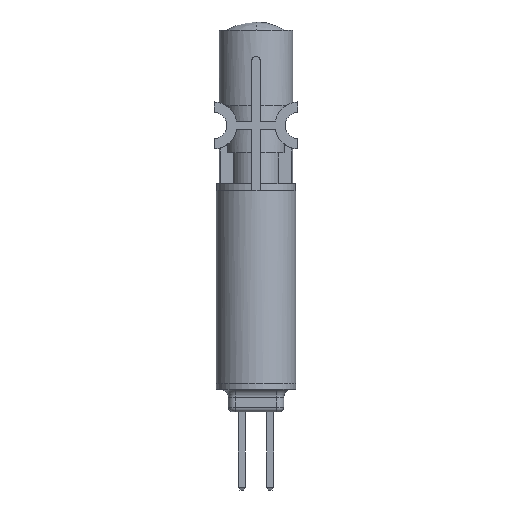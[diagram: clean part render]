
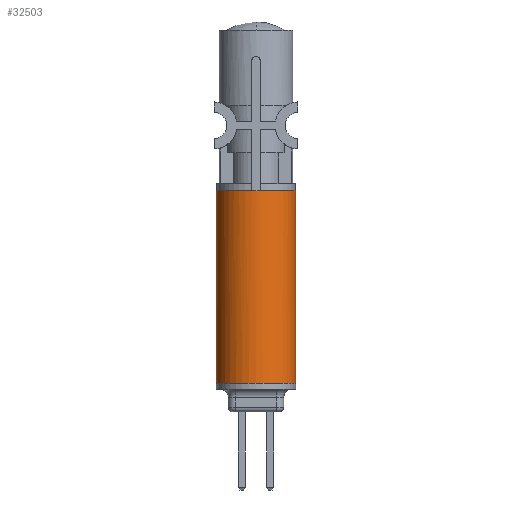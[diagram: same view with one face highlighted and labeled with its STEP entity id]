
A CAD part, front view. The second image highlights one B-rep face of the part: STEP entity #32503.
In plain terms, the highlighted cylindrical face has radius 3.581 mm (diameter 7.163 mm), a partial arc.
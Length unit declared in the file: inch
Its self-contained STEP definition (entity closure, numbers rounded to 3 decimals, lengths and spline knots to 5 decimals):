
#81 = EDGE_LOOP ( 'NONE', ( #31595, #30205, #34369, #18401, #40531, #6697 ) ) ;
#1026 = EDGE_CURVE ( 'NONE', #14448, #36892, #40650, .T. ) ;
#1933 = CYLINDRICAL_SURFACE ( 'NONE', #6724, 0.141 ) ;
#2360 = FACE_OUTER_BOUND ( 'NONE', #81, .T. ) ;
#3554 = DIRECTION ( 'NONE',  ( 0., 0., 1. ) ) ;
#3737 = CARTESIAN_POINT ( 'NONE',  ( 0., 0., -0.566 ) ) ;
#4627 = CARTESIAN_POINT ( 'NONE',  ( -0.015, -0.1402, -0.566 ) ) ;
#6697 = ORIENTED_EDGE ( 'NONE', *, *, #10096, .T. ) ;
#6724 = AXIS2_PLACEMENT_3D ( 'NONE', #30754, #11769, #28006 ) ;
#6922 = DIRECTION ( 'NONE',  ( -1., 0., 0. ) ) ;
#9408 = VECTOR ( 'NONE', #3554, 39.37008 ) ;
#9518 = DIRECTION ( 'NONE',  ( -1., 0., 0. ) ) ;
#9530 = CARTESIAN_POINT ( 'NONE',  ( 0.141, 0., -1.266 ) ) ;
#9634 = AXIS2_PLACEMENT_3D ( 'NONE', #3737, #13342, #9518 ) ;
#10096 = EDGE_CURVE ( 'NONE', #23543, #19625, #29833, .T. ) ;
#10362 = AXIS2_PLACEMENT_3D ( 'NONE', #23663, #17154, #6922 ) ;
#11734 = VECTOR ( 'NONE', #39836, 39.37008 ) ;
#11769 = DIRECTION ( 'NONE',  ( 0., 0., 1. ) ) ;
#13058 = CIRCLE ( 'NONE', #10362, 0.141 ) ;
#13342 = DIRECTION ( 'NONE',  ( 0., 0., -1. ) ) ;
#13752 = CARTESIAN_POINT ( 'NONE',  ( -0.141, 0., -0.566 ) ) ;
#14444 = CARTESIAN_POINT ( 'NONE',  ( 0., 0., -0.566 ) ) ;
#14448 = VERTEX_POINT ( 'NONE', #19082 ) ;
#15322 = EDGE_CURVE ( 'NONE', #36892, #23543, #33289, .T. ) ;
#15456 = EDGE_CURVE ( 'NONE', #28042, #19625, #22642, .T. ) ;
#16248 = CARTESIAN_POINT ( 'NONE',  ( 0., 0., -0.566 ) ) ;
#16534 = CARTESIAN_POINT ( 'NONE',  ( -0.141, 0., -1.266 ) ) ;
#17154 = DIRECTION ( 'NONE',  ( 0., 0., -1. ) ) ;
#18401 = ORIENTED_EDGE ( 'NONE', *, *, #1026, .T. ) ;
#19082 = CARTESIAN_POINT ( 'NONE',  ( 0.141, 0., -0.566 ) ) ;
#19178 = AXIS2_PLACEMENT_3D ( 'NONE', #14444, #24151, #37013 ) ;
#19625 = VERTEX_POINT ( 'NONE', #13752 ) ;
#20786 = EDGE_CURVE ( 'NONE', #26014, #14448, #32128, .T. ) ;
#21190 = CARTESIAN_POINT ( 'NONE',  ( -0.141, 0., -1.245 ) ) ;
#22642 = LINE ( 'NONE', #16534, #11734 ) ;
#22990 = DIRECTION ( 'NONE',  ( 0., 0., -1. ) ) ;
#23543 = VERTEX_POINT ( 'NONE', #4627 ) ;
#23663 = CARTESIAN_POINT ( 'NONE',  ( 0., 0., -1.245 ) ) ;
#24151 = DIRECTION ( 'NONE',  ( 0., 0., -1. ) ) ;
#26014 = VERTEX_POINT ( 'NONE', #40908 ) ;
#26713 = CARTESIAN_POINT ( 'NONE',  ( 0.015, -0.1402, -0.566 ) ) ;
#28006 = DIRECTION ( 'NONE',  ( 1., 0., 0. ) ) ;
#28042 = VERTEX_POINT ( 'NONE', #21190 ) ;
#29833 = CIRCLE ( 'NONE', #35245, 0.141 ) ;
#30205 = ORIENTED_EDGE ( 'NONE', *, *, #36582, .F. ) ;
#30754 = CARTESIAN_POINT ( 'NONE',  ( 0., 0., -1.266 ) ) ;
#31595 = ORIENTED_EDGE ( 'NONE', *, *, #15456, .F. ) ;
#32047 = DIRECTION ( 'NONE',  ( -1., 0., 0. ) ) ;
#32128 = LINE ( 'NONE', #9530, #9408 ) ;
#32503 = ADVANCED_FACE ( 'NONE', ( #2360 ), #1933, .T. ) ;
#33289 = CIRCLE ( 'NONE', #19178, 0.141 ) ;
#34369 = ORIENTED_EDGE ( 'NONE', *, *, #20786, .T. ) ;
#35245 = AXIS2_PLACEMENT_3D ( 'NONE', #16248, #22990, #32047 ) ;
#36582 = EDGE_CURVE ( 'NONE', #26014, #28042, #13058, .T. ) ;
#36892 = VERTEX_POINT ( 'NONE', #26713 ) ;
#37013 = DIRECTION ( 'NONE',  ( -1., 0., 0. ) ) ;
#39836 = DIRECTION ( 'NONE',  ( 0., 0., 1. ) ) ;
#40531 = ORIENTED_EDGE ( 'NONE', *, *, #15322, .T. ) ;
#40650 = CIRCLE ( 'NONE', #9634, 0.141 ) ;
#40908 = CARTESIAN_POINT ( 'NONE',  ( 0.141, 0., -1.245 ) ) ;
